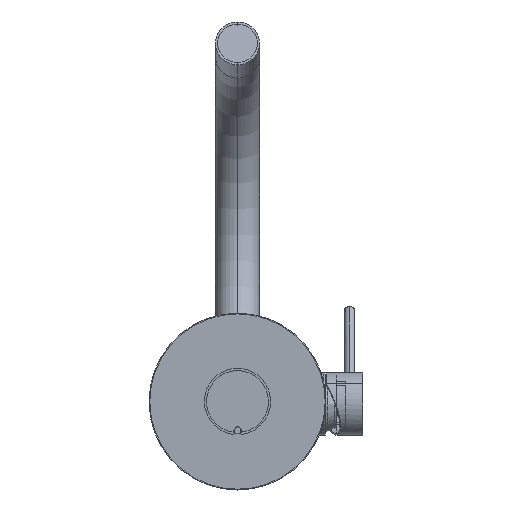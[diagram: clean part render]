
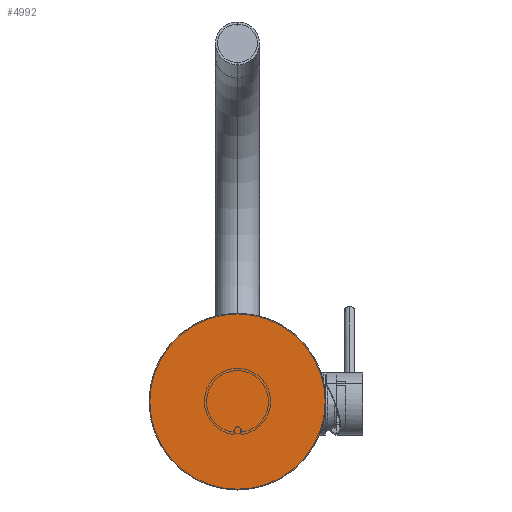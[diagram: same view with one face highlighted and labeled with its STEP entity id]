
A CAD part, top view. The second image highlights one B-rep face of the part: STEP entity #4992.
In plain terms, the highlighted planar face has unit normal (0, 0, 1).
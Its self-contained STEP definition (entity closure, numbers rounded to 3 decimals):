
#39=CARTESIAN_POINT('',(0.,0.,765.));
#40=DIRECTION('',(0.,0.,-1.));
#41=DIRECTION('',(-1.,0.,0.));
#42=AXIS2_PLACEMENT_3D('',#39,#40,#41);
#44=CARTESIAN_POINT('',(0.,0.,765.));
#45=DIRECTION('',(0.,0.,-1.));
#46=DIRECTION('',(1.,0.,0.));
#47=AXIS2_PLACEMENT_3D('',#44,#45,#46);
#4759=CARTESIAN_POINT('',(-60.,0.,765.));
#4760=CARTESIAN_POINT('',(60.,0.,765.));
#4761=VERTEX_POINT('',#4759);
#4762=VERTEX_POINT('',#4760);
#4983=CARTESIAN_POINT('',(0.,0.,765.));
#4984=DIRECTION('',(0.,0.,-1.));
#4985=DIRECTION('',(0.,-1.,0.));
#4986=AXIS2_PLACEMENT_3D('',#4983,#4984,#4985);
#4987=PLANE('',#4986);
#4988=ORIENTED_EDGE('',*,*,#4963,.T.);
#4989=ORIENTED_EDGE('',*,*,#4977,.T.);
#4990=EDGE_LOOP('',(#4988,#4989));
#4991=FACE_OUTER_BOUND('',#4990,.F.);
#4992=ADVANCED_FACE('',(#4991),#4987,.F.);
#43=CIRCLE('',#42,60.);
#48=CIRCLE('',#47,60.);
#4963=EDGE_CURVE('',#4761,#4762,#43,.T.);
#4977=EDGE_CURVE('',#4762,#4761,#48,.T.);
